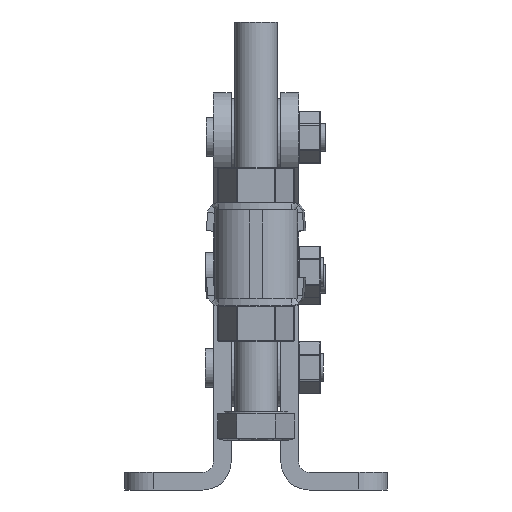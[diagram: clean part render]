
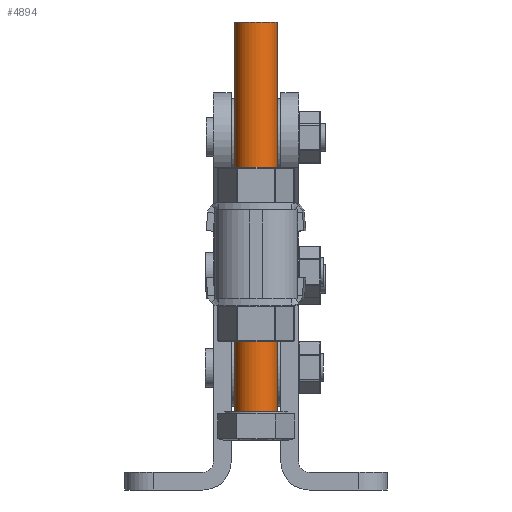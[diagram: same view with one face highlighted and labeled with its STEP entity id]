
A CAD part, left-side view. The second image highlights one B-rep face of the part: STEP entity #4894.
In plain terms, the highlighted cylindrical face has radius 6 mm (diameter 12 mm), a full revolution.
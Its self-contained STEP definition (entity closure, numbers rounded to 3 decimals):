
#1079=FACE_BOUND('',#1667,.T.);
#1277=FACE_OUTER_BOUND('',#1666,.T.);
#1666=EDGE_LOOP('',(#4032));
#1667=EDGE_LOOP('',(#4033));
#1980=CIRCLE('',#5398,6.);
#1981=CIRCLE('',#5399,6.);
#2396=VERTEX_POINT('',#8222);
#2397=VERTEX_POINT('',#8224);
#2960=EDGE_CURVE('',#2396,#2396,#1980,.T.);
#2961=EDGE_CURVE('',#2397,#2397,#1981,.T.);
#4032=ORIENTED_EDGE('',*,*,#2960,.F.);
#4033=ORIENTED_EDGE('',*,*,#2961,.F.);
#4666=CYLINDRICAL_SURFACE('',#5397,6.);
#4894=ADVANCED_FACE('',(#1277,#1079),#4666,.T.);
#5397=AXIS2_PLACEMENT_3D('',#8221,#6599,#6600);
#5398=AXIS2_PLACEMENT_3D('',#8223,#6601,#6602);
#5399=AXIS2_PLACEMENT_3D('',#8225,#6603,#6604);
#6599=DIRECTION('center_axis',(0.,0.,1.));
#6600=DIRECTION('ref_axis',(-1.,0.,0.));
#6601=DIRECTION('center_axis',(0.,0.,-1.));
#6602=DIRECTION('ref_axis',(-1.,0.,0.));
#6603=DIRECTION('center_axis',(0.,0.,1.));
#6604=DIRECTION('ref_axis',(-1.,0.,0.));
#8221=CARTESIAN_POINT('Origin',(0.,0.,
8.));
#8222=CARTESIAN_POINT('',(6.,0.,8.));
#8223=CARTESIAN_POINT('Origin',(0.,0.,
8.));
#8224=CARTESIAN_POINT('',(6.,0.,118.));
#8225=CARTESIAN_POINT('Origin',(0.,0.,
118.));
